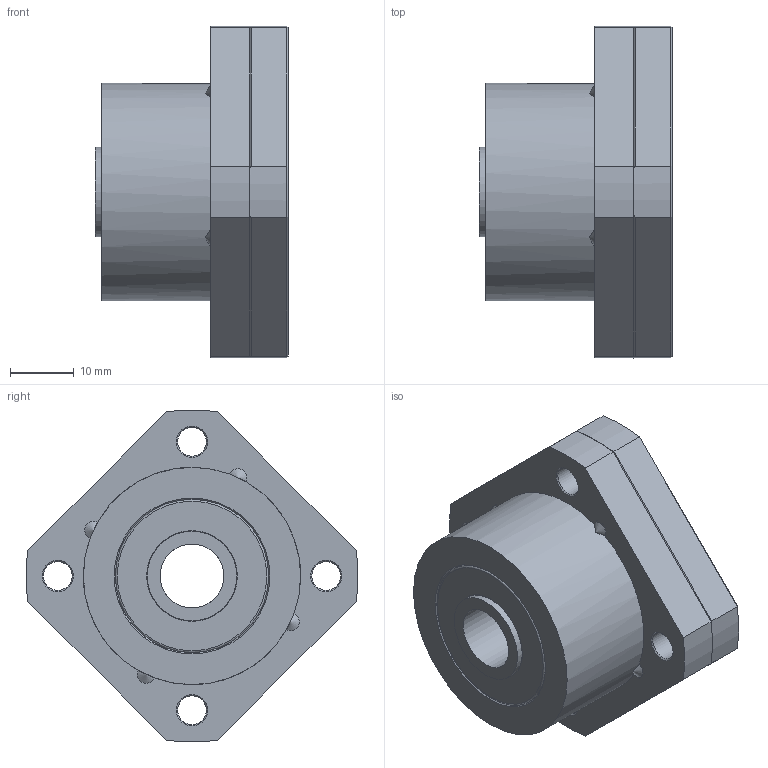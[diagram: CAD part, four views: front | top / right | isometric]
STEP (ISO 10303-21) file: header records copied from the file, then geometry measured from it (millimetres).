
FILE_DESCRIPTION(/* description */ (''),/* implementation_level */ '2;1');
FILE_NAME(/* name */ 'C:\Users\Nick_2\Dropbox\WG Projekte\Kamp und Kötter\Artikel\Lagerset Flanschlager (FK-FF)\02_STEP-Dateien\FK10-Flanschfestlager-20160127.stp',/* time_stamp */ '2016-01-27T18:07:00+01:00',/* author */ ('Nick_2'),/* organization */ (''),/* preprocessor_version */ 'ST-DEVELOPER v15.6',/* originating_system */ 'Autodesk Inventor 2015',/* authorisation */ '');
FILE_SCHEMA (('AUTOMOTIVE_DESIGN { 1 0 10303 214 3 1 1 }'));
Length unit declared in the file: millimetre
Products named in the file (8): FK10_Flanschfestlager; Rolling bearing 7000 C GB_T 292-94; Passscheibe22x26x02; FK10_Abdeckkappe; DIN 3760 - AS - 14 x 24 x 7 - NBR; FK10-Distanzring_lang; DIN 7984 - M4 x 6; FK10-Flanschfestlager-20160126
Assembly tree (13 placements, depth 2):
  FK10-Flanschfestlager-20160126
    FK10_Flanschfestlager
    Rolling bearing 7000 C GB_T 292-94  x2
    Passscheibe22x26x02
    FK10_Abdeckkappe
    DIN 3760 - AS - 14 x 24 x 7 - NBR  x2
    FK10-Distanzring_lang  x2
    DIN 7984 - M4 x 6  x4
Bounding box: 30.2 x 51.94 x 51.94 mm (x, y, z)
Volume: 28133.4 mm3; surface area: 24203 mm2
Topology: 29 solids, 29 shells, 270 faces, 600 edges, 375 vertices
Faces by surface type: plane 85, cylinder 63, cone 54, torus 54, sphere 14
Full cylindrical faces by diameter (mm): 3.242 x4, 4 x4, 4.5 x8, 7 x4, 8 x8, 10 x4, 14 x2, 15.216 x4, 18.2 x2, 20.5 x2, 20.784 x2, 22 x1, 24 x4, 26 x5, 34 x1
Entity records: 4411 total; most frequent: DIRECTION 814, CARTESIAN_POINT 723, ORIENTED_EDGE 564, AXIS2_PLACEMENT_3D 381, EDGE_LOOP 310, EDGE_CURVE 268, VERTEX_POINT 216, CIRCLE 186
